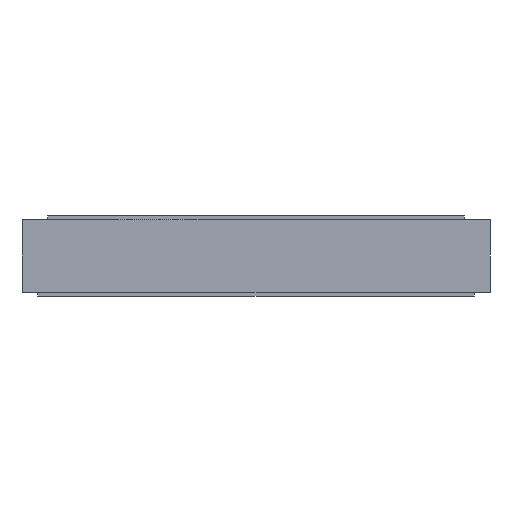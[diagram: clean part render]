
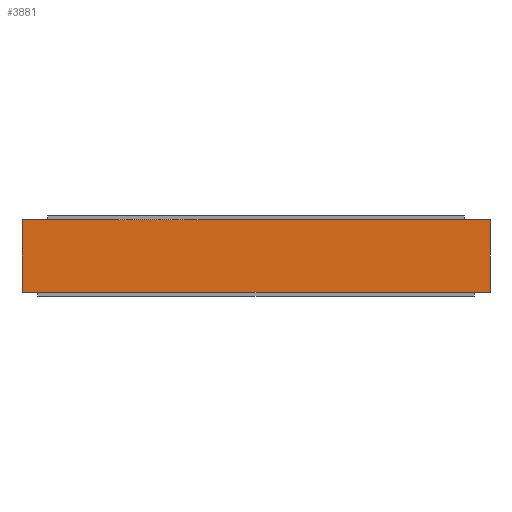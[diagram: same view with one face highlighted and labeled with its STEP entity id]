
A CAD part, left-side view. The second image highlights one B-rep face of the part: STEP entity #3881.
In plain terms, the highlighted planar face has unit normal (-1, 0, 0).
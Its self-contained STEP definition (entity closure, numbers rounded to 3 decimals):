
#51 = LINE ( 'NONE', #3285, #671 ) ;
#91 = CARTESIAN_POINT ( 'NONE',  ( -13., 2.25, 0. ) ) ;
#142 = DIRECTION ( 'NONE',  ( -1., 0., 0. ) ) ;
#406 = LINE ( 'NONE', #2285, #4170 ) ;
#487 = LINE ( 'NONE', #1029, #947 ) ;
#498 = ORIENTED_EDGE ( 'NONE', *, *, #4268, .F. ) ;
#671 = VECTOR ( 'NONE', #1481, 1000. ) ;
#703 = FACE_OUTER_BOUND ( 'NONE', #2024, .T. ) ;
#787 = DIRECTION ( 'NONE',  ( 0., -1., 0. ) ) ;
#947 = VECTOR ( 'NONE', #4725, 1000. ) ;
#1000 = ORIENTED_EDGE ( 'NONE', *, *, #2929, .T. ) ;
#1029 = CARTESIAN_POINT ( 'NONE',  ( -13., 2.25, -0.7 ) ) ;
#1162 = EDGE_CURVE ( 'NONE', #2462, #3192, #3842, .T. ) ;
#1237 = CARTESIAN_POINT ( 'NONE',  ( -13., -2.25, 0. ) ) ;
#1481 = DIRECTION ( 'NONE',  ( 0., 0., 1. ) ) ;
#1495 = CARTESIAN_POINT ( 'NONE',  ( -13., 2.25, -0.7 ) ) ;
#1591 = ORIENTED_EDGE ( 'NONE', *, *, #1162, .F. ) ;
#1681 = VERTEX_POINT ( 'NONE', #2934 ) ;
#2024 = EDGE_LOOP ( 'NONE', ( #1591, #498, #1000, #3560 ) ) ;
#2140 = EDGE_CURVE ( 'NONE', #1681, #3192, #51, .T. ) ;
#2216 = CARTESIAN_POINT ( 'NONE',  ( -13., 2.25, 0. ) ) ;
#2285 = CARTESIAN_POINT ( 'NONE',  ( -13., 2.25, -0.7 ) ) ;
#2309 = PLANE ( 'NONE',  #4358 ) ;
#2462 = VERTEX_POINT ( 'NONE', #2216 ) ;
#2929 = EDGE_CURVE ( 'NONE', #3662, #1681, #487, .T. ) ;
#2934 = CARTESIAN_POINT ( 'NONE',  ( -13., -2.25, -0.7 ) ) ;
#3086 = VECTOR ( 'NONE', #787, 1000. ) ;
#3192 = VERTEX_POINT ( 'NONE', #1237 ) ;
#3285 = CARTESIAN_POINT ( 'NONE',  ( -13., -2.25, -0.7 ) ) ;
#3433 = CARTESIAN_POINT ( 'NONE',  ( -13., 2.25, -0.7 ) ) ;
#3560 = ORIENTED_EDGE ( 'NONE', *, *, #2140, .T. ) ;
#3662 = VERTEX_POINT ( 'NONE', #1495 ) ;
#3842 = LINE ( 'NONE', #91, #3086 ) ;
#3881 = ADVANCED_FACE ( 'NONE', ( #703 ), #2309, .T. ) ;
#4103 = DIRECTION ( 'NONE',  ( 0., 0., 1. ) ) ;
#4170 = VECTOR ( 'NONE', #4103, 1000. ) ;
#4268 = EDGE_CURVE ( 'NONE', #3662, #2462, #406, .T. ) ;
#4358 = AXIS2_PLACEMENT_3D ( 'NONE', #3433, #142, #4541 ) ;
#4541 = DIRECTION ( 'NONE',  ( 0., 0., 1. ) ) ;
#4725 = DIRECTION ( 'NONE',  ( 0., -1., 0. ) ) ;
